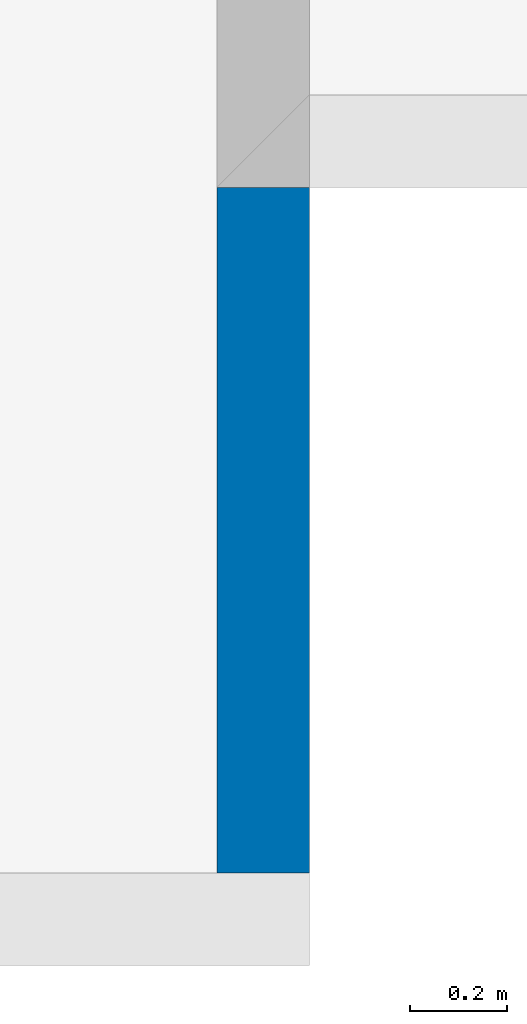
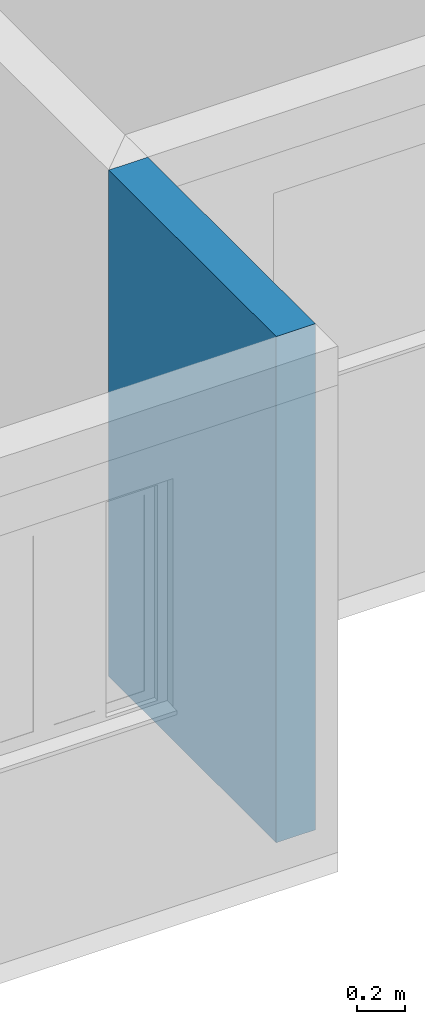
# One storey, part 18 of 47: 1 wall.
"""IFC2X3 building model written with IfcOpenShell, lengths in millimetres."""

from ifc_helpers import new_model, entity, si_unit, converted_unit, derived_unit, money_unit, direction, frame, origin_with_axes, place, context, subcontext, project, spatial, polyline, outline, extrude, material, layer, layer_set, layer_usage, type_object, element, save


model = new_model("IFC2X3")

# Units and contexts
model_context = context("Model", 3, precision=0.01, world=origin_with_axes(), true_north=direction((0.0, 1.0)))
body_context = subcontext(model_context, "Body", "Model", "MODEL_VIEW")
ifc_project = project(units=[si_unit("LENGTHUNIT", "METRE", prefix="MILLI"), si_unit("AREAUNIT", "SQUARE_METRE"), si_unit("VOLUMEUNIT", "CUBIC_METRE"), converted_unit("PLANEANGLEUNIT", "DEGREE", entity("IfcPlaneAngleMeasure", 0.0174532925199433), si_unit("PLANEANGLEUNIT", "RADIAN"), dimensions=[0, 0, 0, 0, 0, 0, 0]), money_unit("USD"), converted_unit("TIMEUNIT", "Year", entity("IfcTimeMeasure", 31557600.0), si_unit("TIMEUNIT", "SECOND"), dimensions=[0, 0, 1, 0, 0, 0, 0]), si_unit("MASSUNIT", "GRAM", prefix="KILO"), si_unit("THERMODYNAMICTEMPERATUREUNIT", "DEGREE_CELSIUS"), si_unit("LUMINOUSINTENSITYUNIT", "LUMEN"), si_unit("ENERGYUNIT", "JOULE", prefix="MEGA"), derived_unit("THERMALCONDUCTANCEUNIT", [(si_unit("POWERUNIT", "WATT"), 1), (si_unit("LENGTHUNIT", "METRE"), -1), (si_unit("THERMODYNAMICTEMPERATUREUNIT", "KELVIN"), -1)]), derived_unit("SPECIFICHEATCAPACITYUNIT", [(si_unit("ENERGYUNIT", "JOULE"), 1), (si_unit("MASSUNIT", "GRAM", prefix="KILO"), -1), (si_unit("THERMODYNAMICTEMPERATUREUNIT", "KELVIN"), -1)]), derived_unit("MASSDENSITYUNIT", [(si_unit("MASSUNIT", "GRAM", prefix="KILO"), 1), (si_unit("VOLUMEUNIT", "CUBIC_METRE"), -1)])], contexts=[model_context])

# Site, building, storey
site_placement = place(None, origin_with_axes())
site = spatial("IfcSite", under=ifc_project, at=site_placement, Name="Local", CompositionType="ELEMENT")
building_placement = place(site_placement, origin_with_axes())
building = spatial("IfcBuilding", under=site, at=building_placement, Name="Construção", CompositionType="ELEMENT")
storey_placement = place(building_placement, origin_with_axes())
storey = spatial("IfcBuildingStorey", under=building, at=storey_placement, Name="Pavimento Tipo", CompositionType="ELEMENT", Elevation=0.0)

# Wall
ifc_material = material(Name="Concreto - Estrutural")
ifc_layer = layer(ifc_material, 190.0, ventilated="UNKNOWN")
ifc_layer_set = layer_set([ifc_layer], Name="Concreto - Estrutural 190")
ifc_layer_usage = layer_usage(ifc_layer_set, "AXIS2", "POSITIVE", 0.0)
wall_type = type_object("IfcWallType", Name="Concreto - Estrutural 190", PredefinedType="NOTDEFINED")
wall_placement = place(storey_placement, frame((6252.566997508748, -3.018582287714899, 0.0), z_axis=(0.0, 0.0, 1.0), x_axis=(0.0, -1.0, 0.0)))
element("IfcWallStandardCase", 1, at=wall_placement, inside=storey, type_object=wall_type, material=ifc_layer_usage, Name="Apartamento 4 - Parede-005", context=body_context, shape_type="SweptSolid", body=[
    extrude(outline(polyline([(0.0, 0.0), (1409.999999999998, 0.0), (1409.999999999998, 190.0000000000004), (0.0, 190.0000000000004), (0.0, 0.0)])), origin_with_axes(), (0.0, 0.0, 1.0), 2600.0),
])

save(model, "model.ifc")
